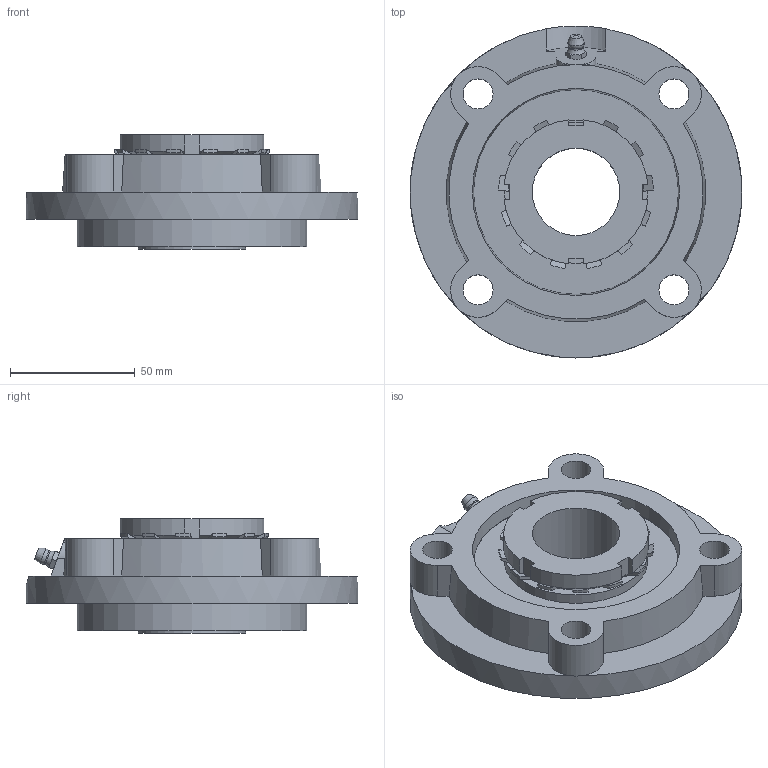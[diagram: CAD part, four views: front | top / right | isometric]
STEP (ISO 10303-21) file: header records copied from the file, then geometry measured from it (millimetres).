
FILE_DESCRIPTION((''),'2;1');
FILE_NAME('\\Ts-tgl068\j-cad-d-base\00.3DCADデータ作成フォルダ\02.フランジ形\UKFCX\UKFCX08+H.stp','2014-12-10T08:24:39',('btec_1106_2'),(''),'Autodesk Inventor 2012','Autodesk Inventor 2012','');
FILE_SCHEMA(('AUTOMOTIVE_DESIGN { 1 0 10303 214 1 1 1 1 }'));
Length unit declared in the file: millimetre
Products named in the file (4): UKFCX00+H; FCX08; UKX08+H; GU1
Assembly tree (3 placements, depth 2):
  UKFCX00+H
    FCX08
    UKX08+H
    GU1
Bounding box: 133 x 133 x 46 mm (x, y, z)
Volume: 285683.1 mm3; surface area: 69565.6 mm2
Topology: 3 solids, 3 shells, 179 faces, 475 edges, 309 vertices
Faces by surface type: plane 76, cone 50, cylinder 47, sphere 4, torus 2
Full cylindrical faces by diameter (mm): 5.359 x1, 6.35 x1, 12 x4, 35 x1, 57.3 x2, 92 x1, 133 x1
Entity records: 5525 total; most frequent: CARTESIAN_POINT 1265, ORIENTED_EDGE 896, DIRECTION 848, EDGE_CURVE 448, AXIS2_PLACEMENT_3D 346, VERTEX_POINT 303, EDGE_LOOP 221, FACE_OUTER_BOUND 179
